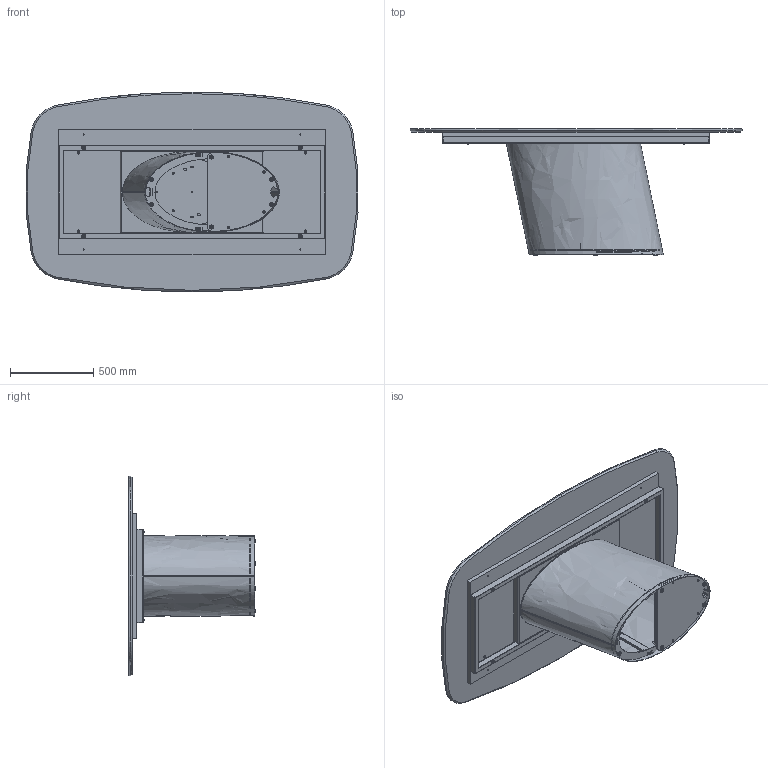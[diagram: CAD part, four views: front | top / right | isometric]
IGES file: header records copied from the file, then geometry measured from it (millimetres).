
Start section: SolidWorks IGES file using analytic representation for surfaces
Global section: file name: Y:\eforma\TECNICO\SOLIDWORKS\E-FORMA\1-TAVOLI\DORADO\02 parts\DO41M.IGS; native system: SolidWorks 2022; preprocessor: SolidWorks 2022; author: eforma.tech; date: 240806.151411; units: millimetre
Bounding box: 1992.14 x 757 x 1200 mm (x, y, z)
Volume: 85585415.3 mm3; surface area: 14236208 mm2
Topology: 54 solids, 54 shells, 1500 faces, 3580 edges, 2179 vertices
Faces by surface type: revolution 960, plane 514, bspline 26
